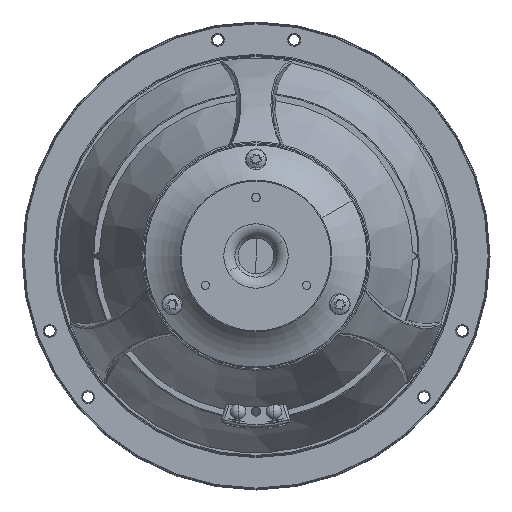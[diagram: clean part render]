
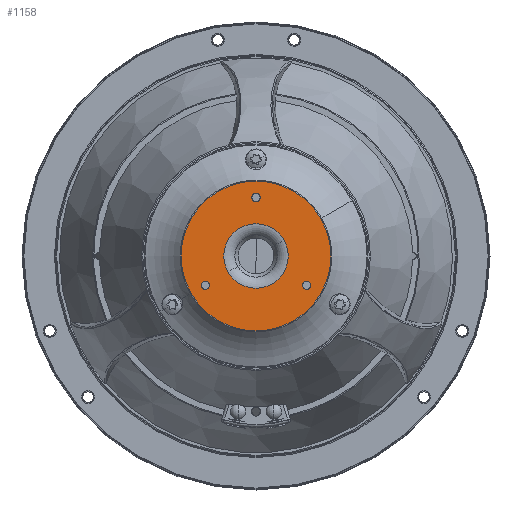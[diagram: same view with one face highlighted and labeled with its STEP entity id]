
A CAD part, front view. The second image highlights one B-rep face of the part: STEP entity #1158.
In plain terms, the highlighted planar face has unit normal (0, -1, 0).
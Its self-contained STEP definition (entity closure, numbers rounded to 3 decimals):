
#8 = ORIENTED_EDGE ( 'NONE', *, *, #20631, .F. ) ;
#209 = DIRECTION ( 'NONE',  ( 0., -1., 0. ) ) ;
#1051 = VERTEX_POINT ( 'NONE', #29954 ) ;
#1158 = ADVANCED_FACE ( 'NONE', ( #3882, #39338, #33542, #26462, #4085 ), #36959, .T. ) ;
#1171 = CARTESIAN_POINT ( 'NONE',  ( 19.919, -49.75, -11.5 ) ) ;
#1599 = CIRCLE ( 'NONE', #7121, 1.65 ) ;
#2144 = VERTEX_POINT ( 'NONE', #41302 ) ;
#3105 = DIRECTION ( 'NONE',  ( -0.866, 0., -0.5 ) ) ;
#3118 = CIRCLE ( 'NONE', #5873, 12.66 ) ;
#3181 = EDGE_LOOP ( 'NONE', ( #8, #34973 ) ) ;
#3665 = DIRECTION ( 'NONE',  ( -0.866, 0., -0.5 ) ) ;
#3882 = FACE_BOUND ( 'NONE', #41366, .T. ) ;
#4085 = FACE_BOUND ( 'NONE', #23743, .T. ) ;
#5374 = DIRECTION ( 'NONE',  ( 0., -1., 0. ) ) ;
#5873 = AXIS2_PLACEMENT_3D ( 'NONE', #9664, #36260, #6639 ) ;
#5950 = AXIS2_PLACEMENT_3D ( 'NONE', #1171, #24235, #37284 ) ;
#6639 = DIRECTION ( 'NONE',  ( -0.866, 0., -0.5 ) ) ;
#6859 = AXIS2_PLACEMENT_3D ( 'NONE', #20429, #7700, #20860 ) ;
#7121 = AXIS2_PLACEMENT_3D ( 'NONE', #26745, #26330, #3105 ) ;
#7311 = CARTESIAN_POINT ( 'NONE',  ( -19.919, -49.75, -11.5 ) ) ;
#7449 = ORIENTED_EDGE ( 'NONE', *, *, #27591, .F. ) ;
#7700 = DIRECTION ( 'NONE',  ( 0., -1., 0. ) ) ;
#7739 = EDGE_CURVE ( 'NONE', #14801, #25716, #30223, .T. ) ;
#8985 = ORIENTED_EDGE ( 'NONE', *, *, #30919, .F. ) ;
#9230 = DIRECTION ( 'NONE',  ( 0., -1., 0. ) ) ;
#9384 = ORIENTED_EDGE ( 'NONE', *, *, #10557, .T. ) ;
#9664 = CARTESIAN_POINT ( 'NONE',  ( 0., -49.75, 0. ) ) ;
#10448 = EDGE_CURVE ( 'NONE', #2144, #1051, #23505, .T. ) ;
#10557 = EDGE_CURVE ( 'NONE', #34551, #22672, #12373, .T. ) ;
#11053 = CIRCLE ( 'NONE', #15849, 12.66 ) ;
#11665 = VERTEX_POINT ( 'NONE', #25755 ) ;
#11843 = ORIENTED_EDGE ( 'NONE', *, *, #10448, .F. ) ;
#12373 = CIRCLE ( 'NONE', #41103, 29.448 ) ;
#13517 = CARTESIAN_POINT ( 'NONE',  ( -25.503, -49.75, -14.724 ) ) ;
#14801 = VERTEX_POINT ( 'NONE', #25127 ) ;
#14949 = CARTESIAN_POINT ( 'NONE',  ( 1.429, -49.75, 23.825 ) ) ;
#14958 = CARTESIAN_POINT ( 'NONE',  ( 18.49, -49.75, -12.325 ) ) ;
#15525 = EDGE_LOOP ( 'NONE', ( #19403, #9384 ) ) ;
#15750 = DIRECTION ( 'NONE',  ( 0., -1., 0. ) ) ;
#15849 = AXIS2_PLACEMENT_3D ( 'NONE', #41717, #15750, #38902 ) ;
#16531 = AXIS2_PLACEMENT_3D ( 'NONE', #40499, #26772, #27417 ) ;
#17290 = AXIS2_PLACEMENT_3D ( 'NONE', #7311, #31798, #28127 ) ;
#17368 = EDGE_CURVE ( 'NONE', #25248, #36893, #1599, .T. ) ;
#17369 = CARTESIAN_POINT ( 'NONE',  ( -1.429, -49.75, 22.175 ) ) ;
#18788 = CARTESIAN_POINT ( 'NONE',  ( 25.503, -49.75, 14.724 ) ) ;
#19380 = ORIENTED_EDGE ( 'NONE', *, *, #35918, .F. ) ;
#19403 = ORIENTED_EDGE ( 'NONE', *, *, #31429, .T. ) ;
#19414 = DIRECTION ( 'NONE',  ( 0., -1., 0. ) ) ;
#20429 = CARTESIAN_POINT ( 'NONE',  ( 19.919, -49.75, -11.5 ) ) ;
#20631 = EDGE_CURVE ( 'NONE', #36893, #25248, #24834, .T. ) ;
#20860 = DIRECTION ( 'NONE',  ( -0.866, 0., -0.5 ) ) ;
#21730 = ORIENTED_EDGE ( 'NONE', *, *, #7739, .F. ) ;
#22646 = CARTESIAN_POINT ( 'NONE',  ( 0., -49.75, 0. ) ) ;
#22672 = VERTEX_POINT ( 'NONE', #13517 ) ;
#23191 = ORIENTED_EDGE ( 'NONE', *, *, #40215, .F. ) ;
#23505 = CIRCLE ( 'NONE', #17290, 1.65 ) ;
#23743 = EDGE_LOOP ( 'NONE', ( #23191, #8985 ) ) ;
#24235 = DIRECTION ( 'NONE',  ( 0., -1., 0. ) ) ;
#24834 = CIRCLE ( 'NONE', #26193, 1.65 ) ;
#25127 = CARTESIAN_POINT ( 'NONE',  ( 21.348, -49.75, -10.675 ) ) ;
#25248 = VERTEX_POINT ( 'NONE', #14949 ) ;
#25716 = VERTEX_POINT ( 'NONE', #14958 ) ;
#25755 = CARTESIAN_POINT ( 'NONE',  ( -10.964, -49.75, -6.33 ) ) ;
#26193 = AXIS2_PLACEMENT_3D ( 'NONE', #38229, #5374, #40817 ) ;
#26330 = DIRECTION ( 'NONE',  ( 0., -1., 0. ) ) ;
#26462 = FACE_OUTER_BOUND ( 'NONE', #15525, .T. ) ;
#26520 = AXIS2_PLACEMENT_3D ( 'NONE', #39545, #209, #3665 ) ;
#26745 = CARTESIAN_POINT ( 'NONE',  ( 0., -49.75, 23. ) ) ;
#26772 = DIRECTION ( 'NONE',  ( 0., -1., 0. ) ) ;
#27417 = DIRECTION ( 'NONE',  ( -0.866, 0., -0.5 ) ) ;
#27552 = CIRCLE ( 'NONE', #32366, 29.448 ) ;
#27591 = EDGE_CURVE ( 'NONE', #25716, #14801, #29310, .T. ) ;
#28127 = DIRECTION ( 'NONE',  ( -0.866, 0., -0.5 ) ) ;
#29208 = DIRECTION ( 'NONE',  ( -0.866, 0., -0.5 ) ) ;
#29310 = CIRCLE ( 'NONE', #5950, 1.65 ) ;
#29954 = CARTESIAN_POINT ( 'NONE',  ( -18.49, -49.75, -10.675 ) ) ;
#30223 = CIRCLE ( 'NONE', #6859, 1.65 ) ;
#30919 = EDGE_CURVE ( 'NONE', #31316, #11665, #11053, .T. ) ;
#31316 = VERTEX_POINT ( 'NONE', #40864 ) ;
#31429 = EDGE_CURVE ( 'NONE', #22672, #34551, #27552, .T. ) ;
#31798 = DIRECTION ( 'NONE',  ( 0., -1., 0. ) ) ;
#32366 = AXIS2_PLACEMENT_3D ( 'NONE', #22646, #19414, #32501 ) ;
#32501 = DIRECTION ( 'NONE',  ( -0.866, 0., -0.5 ) ) ;
#33542 = FACE_BOUND ( 'NONE', #35657, .T. ) ;
#34371 = CIRCLE ( 'NONE', #16531, 1.65 ) ;
#34551 = VERTEX_POINT ( 'NONE', #18788 ) ;
#34973 = ORIENTED_EDGE ( 'NONE', *, *, #17368, .F. ) ;
#35657 = EDGE_LOOP ( 'NONE', ( #11843, #19380 ) ) ;
#35918 = EDGE_CURVE ( 'NONE', #1051, #2144, #34371, .T. ) ;
#36260 = DIRECTION ( 'NONE',  ( 0., -1., 0. ) ) ;
#36893 = VERTEX_POINT ( 'NONE', #17369 ) ;
#36959 = PLANE ( 'NONE',  #26520 ) ;
#37284 = DIRECTION ( 'NONE',  ( -0.866, 0., -0.5 ) ) ;
#38229 = CARTESIAN_POINT ( 'NONE',  ( 0., -49.75, 23. ) ) ;
#38635 = CARTESIAN_POINT ( 'NONE',  ( 0., -49.75, 0. ) ) ;
#38902 = DIRECTION ( 'NONE',  ( -0.866, 0., -0.5 ) ) ;
#39338 = FACE_BOUND ( 'NONE', #3181, .T. ) ;
#39545 = CARTESIAN_POINT ( 'NONE',  ( 6.33, -49.75, -10.964 ) ) ;
#40215 = EDGE_CURVE ( 'NONE', #11665, #31316, #3118, .T. ) ;
#40499 = CARTESIAN_POINT ( 'NONE',  ( -19.919, -49.75, -11.5 ) ) ;
#40817 = DIRECTION ( 'NONE',  ( -0.866, 0., -0.5 ) ) ;
#40864 = CARTESIAN_POINT ( 'NONE',  ( 10.964, -49.75, 6.33 ) ) ;
#41103 = AXIS2_PLACEMENT_3D ( 'NONE', #38635, #9230, #29208 ) ;
#41302 = CARTESIAN_POINT ( 'NONE',  ( -21.348, -49.75, -12.325 ) ) ;
#41366 = EDGE_LOOP ( 'NONE', ( #7449, #21730 ) ) ;
#41717 = CARTESIAN_POINT ( 'NONE',  ( 0., -49.75, 0. ) ) ;
